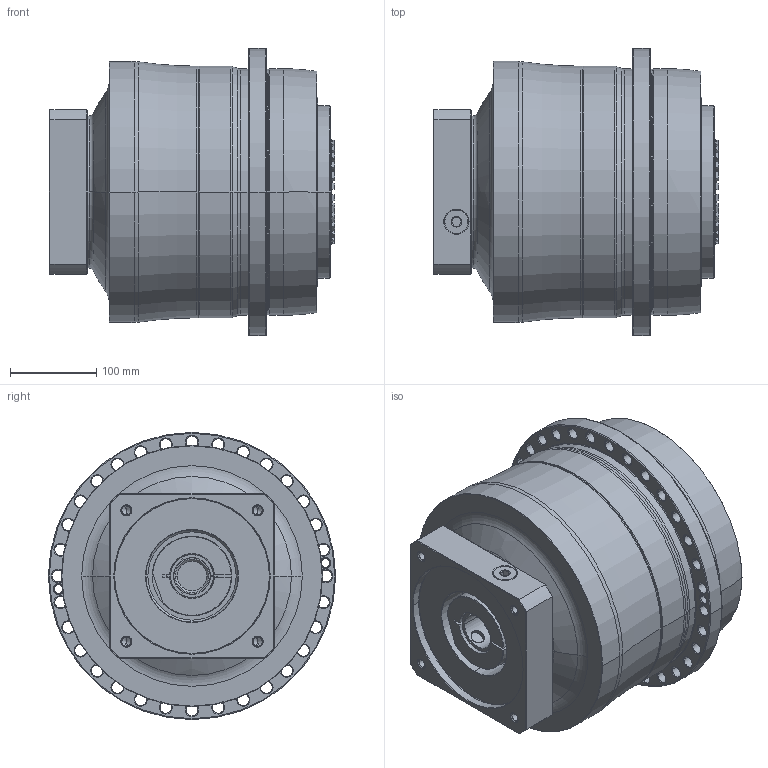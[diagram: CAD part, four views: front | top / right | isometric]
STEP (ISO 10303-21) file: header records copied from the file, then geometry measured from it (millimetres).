
FILE_DESCRIPTION((''),'2;1');
FILE_NAME('APC285_2ST_42-P0409A00201_ASM','2018-06-29T',('d01226'),(''),'PRO/ENGINEER BY PARAMETRIC TECHNOLOGY CORPORATION, 2008410','PRO/ENGINEER BY PARAMETRIC TECHNOLOGY CORPORATION, 2008410','');
FILE_SCHEMA(('CONFIG_CONTROL_DESIGN'));
Length unit declared in the file: millimetre
Products named in the file (9): P0278801003; P03598G0103; P1317810201; P0503A00012; P0912702001; P1211800001; P0409A00201; 21711422019; APC285_2ST_42-P0409A00201_ASM
Assembly tree (8 placements, depth 2):
  APC285_2ST_42-P0409A00201_ASM
    P0278801003
    P03598G0103
    P1317810201
    P0503A00012
    P0912702001
    P1211800001
    P0409A00201
    21711422019
Bounding box: 329.6 x 332 x 332 mm (x, y, z)
Volume: 17230165.3 mm3; surface area: 1026566.3 mm2
Topology: 9 solids, 21 shells, 819 faces, 2005 edges, 1227 vertices
Faces by surface type: cone 290, cylinder 236, plane 147, torus 130, bspline 16
Entity records: 29600 total; most frequent: CARTESIAN_POINT 9833, DIRECTION 4417, ORIENTED_EDGE 3924, EDGE_CURVE 1987, AXIS2_PLACEMENT_3D 1937, VERTEX_POINT 1227, CIRCLE 1105, EDGE_LOOP 944
